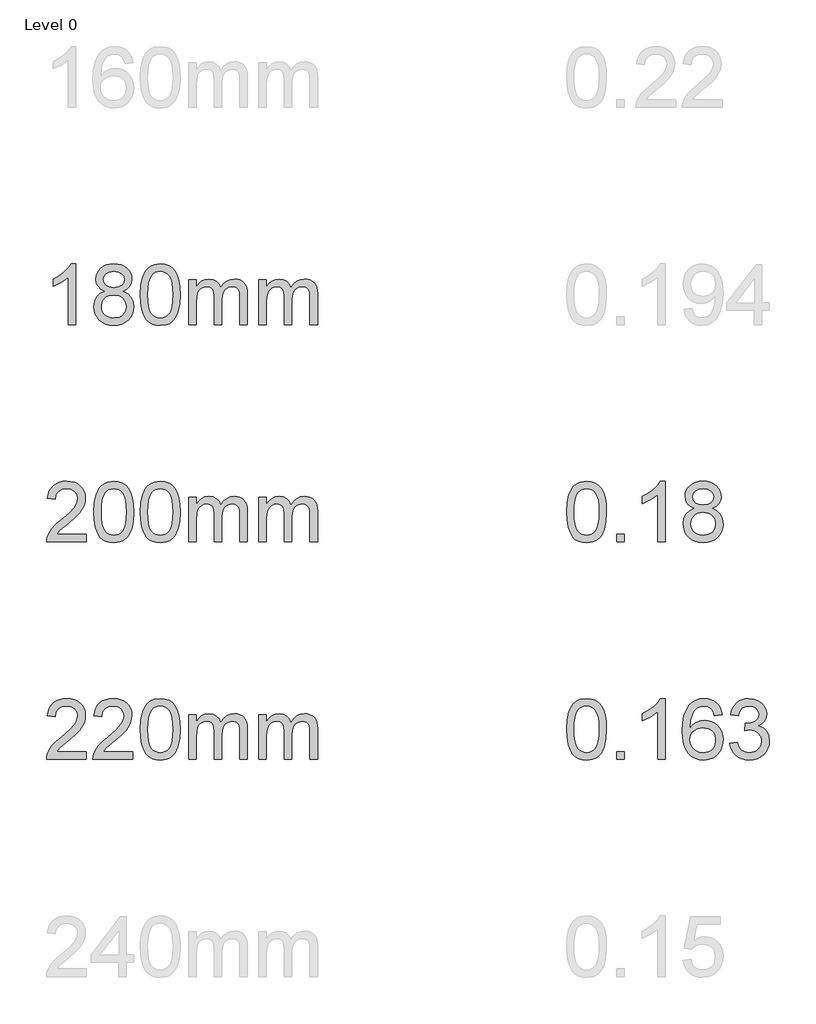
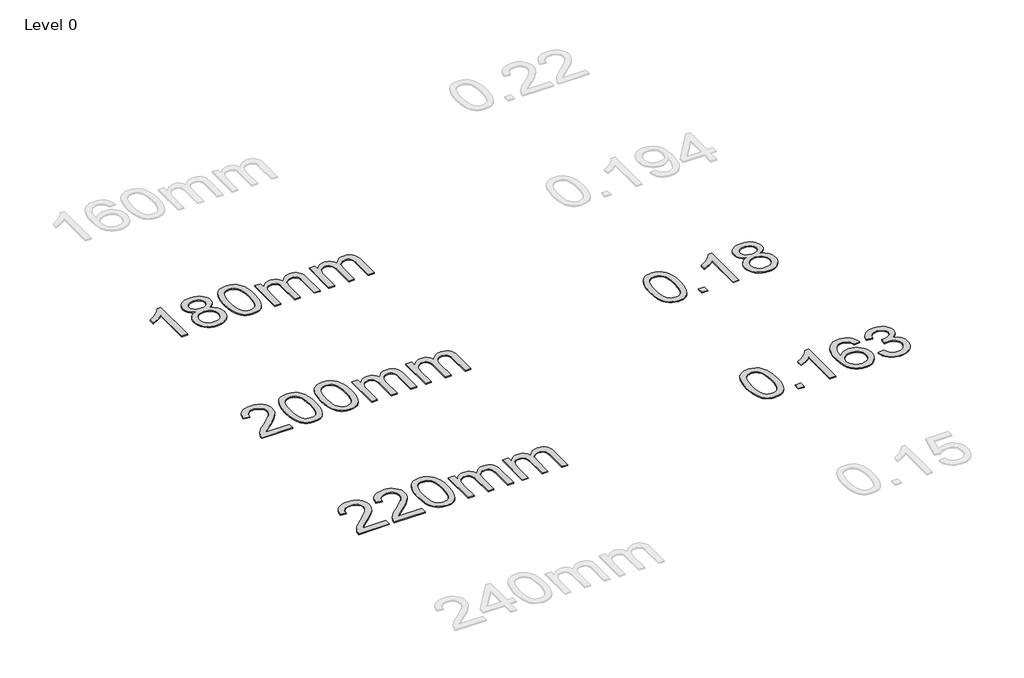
# One storey, part 9 of 11: 5 proxies.
"""IFC4 building model written with IfcOpenShell, lengths in millimetres."""

from ifc_helpers import new_model, si_unit, origin, origin_with_axes, place, context, project, spatial, polyline, outline, extrude, element, save

model = new_model("IFC4")

# Units and contexts
model_context = context("Model", 3, world=origin())
ifc_project = project(units=[si_unit("LENGTHUNIT", "METRE", prefix="MILLI")], contexts=[model_context])

# Site, building, storey
site = spatial("IfcSite", under=ifc_project)
building = spatial("IfcBuilding", under=site)
storey = spatial("IfcBuildingStorey", under=building, Name="Level 0", Elevation=0.0)

# Proxies
placement = place(None, origin())
element("IfcBuildingElementProxy", 1, Name="600mm Arial-400", ObjectType="600mm Arial-400", at=placement, inside=storey, context=model_context, shape_type="SweptSolid", body=[
    extrude(outline(polyline([(34413.7833472, 2821.9346906), (34363.5551921, 2821.9346906), (34363.5551921, 3135.0758449), (34342.5859184, 3118.1164849), (34315.9757874, 3101.1816504), (34263.0988819, 3075.8223182), (34263.0988819, 3123.303621), (34302.5480946, 3144.7634041), (34336.7243319, 3170.2944146), (34363.6655567, 3197.4441058), (34381.4097316, 3223.7599312), (34413.7833472, 3223.7599312), (34413.7833472, 2821.9346906)])), origin_with_axes(), (0.0, 0.0, 1.0), 8.0),
    extrude(outline(polyline([(34606.259207, 3043.2524989), (34579.3670332, 3056.4962507), (34560.4946868, 3074.4488921), (34549.3478624, 3096.742541), (34545.6322542, 3123.0093154), (34547.6556052, 3143.4942112), (34553.7256581, 3162.2745871), (34563.842413, 3179.350443), (34578.0058698, 3194.721779), (34595.5354469, 3207.4259706), (34615.7505625, 3216.5003932), (34638.6512167, 3221.9450467), (34664.2374095, 3223.7599312), (34689.9462296, 3221.9021271), (34713.018562, 3216.3287149), (34733.4544069, 3207.0396945), (34751.2537641, 3194.035066), (34765.6747383, 3178.363293), (34775.9754341, 3161.0728392), (34782.1558517, 3142.1637047), (34784.2159908, 3121.6358893), (34780.5494336, 3096.2152435), (34769.549762, 3074.3017393), (34751.0943485, 3056.4594625), (34725.060566, 3043.2524989), (34755.9749163, 3027.3232085), (34778.4770317, 3003.8645999), (34792.1990301, 2974.0048447), (34796.7730296, 2938.8721141), (34794.504424, 2913.8193503), (34787.6986071, 2890.851251), (34776.3555789, 2869.9678164), (34760.4753394, 2851.1690465), (34740.8917545, 2835.6321635), (34718.4386901, 2824.53439), (34693.1161461, 2817.8757259), (34664.9241225, 2815.6561712), (34636.732099, 2817.884923), (34611.409555, 2824.5711782), (34588.9564905, 2835.714937), (34569.3729057, 2851.3161993), (34553.4926662, 2870.2467936), (34542.149638, 2891.3785485), (34535.3438211, 2914.7114641), (34533.0752155, 2940.2455402), (34537.8331559, 2976.7394342), (34552.1069773, 3006.758605), (34575.1609157, 3029.2729831), (34606.259207, 3043.2524989)]), holes=[polyline([(34595.8604093, 3121.5377875), (34600.3117814, 3099.6120206), (34613.6658979, 3082.1008376), (34635.5303511, 3070.6229193), (34665.5127337, 3066.7969466), (34694.7961405, 3070.5983939), (34716.3295, 3082.0027357), (34729.5732518, 3098.9253075), (34733.9878358, 3119.2814446), (34729.426099, 3140.4101338), (34715.7408888, 3157.8845286), (34693.9132238, 3169.6199642), (34664.9241225, 3173.5317761), (34635.7510803, 3169.7058034), (34613.9602035, 3158.2278851), (34600.3853578, 3141.4034152), (34595.8604093, 3121.5377875)]), polyline([(34583.3033705, 2942.0113738), (34585.4002979, 2922.7956709), (34591.69108, 2904.1931047), (34603.3038883, 2887.9695087), (34621.3668943, 2875.8907166), (34642.9983556, 2868.3859238), (34665.31653, 2865.8843263), (34699.5050301, 2871.1450388), (34713.3987068, 2877.7209295), (34725.1586679, 2886.9271764), (34741.1983229, 2910.8272434), (34746.5448745, 2940.441744), (34741.0266446, 2970.5590166), (34724.4719548, 2994.9863811), (34712.3931626, 3004.4286857), (34698.2297058, 3011.1731889), (34663.6487983, 3016.5687915), (34629.9385448, 3011.2467653), (34616.201218, 3004.5942326), (34604.5424244, 2995.2806867), (34588.613134, 2971.3193061), (34583.3033705, 2942.0113738)])]), origin_with_axes(), (0.0, 0.0, 1.0), 8.0),
    extrude(outline(polyline([(34840.7226653, 3019.6099493), (34844.413748, 3083.9279848), (34855.486996, 3135.2229977), (34873.8320449, 3174.2798028), (34885.6901078, 3189.5131831), (34899.3385299, 3201.8832152), (34914.8232962, 3211.4542785), (34932.190392, 3218.2907522), (34972.5715724, 3223.7599312), (35003.5227109, 3220.5225696), (35031.2364879, 3210.810485), (35054.4130536, 3195.0038219), (35071.7525583, 3173.4827252), (35084.8491573, 3146.4311358), (35095.297006, 3114.0329948), (35102.1396111, 3072.891525), (35104.4204794, 3019.6099493), (35100.766185, 2955.6597958), (35089.8033015, 2904.4874103), (35071.5686173, 2865.393817), (35059.7381454, 2850.1144514), (35046.0989205, 2837.68004), (35030.5957601, 2828.0445974), (35013.1734819, 2821.1621384), (34972.5715724, 2815.6561712), (34944.9068463, 2818.0474042), (34920.38138, 2825.2211031), (34898.9951733, 2837.1772679), (34880.7482264, 2853.9158987), (34863.2370434, 2884.1741928), (34850.7290556, 2921.8759659), (34843.2242629, 2967.0212181), (34840.7226653, 3019.6099493)]), holes=[polyline([(34890.9508204, 3019.7080512), (34892.4223484, 2976.0435241), (34896.8369323, 2940.6992614), (34904.1945722, 2913.6752631), (34914.4952681, 2894.9715294), (34926.954205, 2882.245878), (34940.786568, 2873.1561271), (34955.9923571, 2867.7022765), (34972.5715724, 2865.8843263), (34989.1507876, 2867.7084078), (35004.3565767, 2873.1806525), (35018.1889398, 2882.3010603), (35030.6478767, 2895.0696312), (35040.9485725, 2913.8040218), (35048.3062124, 2940.8218887), (35052.7207964, 2976.1232318), (35054.1923244, 3019.7080512), (35052.7698473, 3062.2168157), (35048.5024162, 3096.9387447), (35041.3900309, 3123.8738381), (35031.4326916, 3143.022096), (35019.1822212, 3156.370081), (35005.1904426, 3165.9043561), (34989.4573559, 3171.6249211), (34971.9829612, 3173.5317761), (34955.4895851, 3171.8517817), (34940.5413133, 3166.8117983), (34927.138146, 3158.4118261), (34915.280083, 3146.651865), (34904.6360306, 3125.8052186), (34897.033136, 3097.6990342), (34892.4713993, 3062.3333117), (34890.9508204, 3019.7080512)])]), origin_with_axes(), (0.0, 0.0, 1.0), 8.0),
    extrude(outline(polyline([(35160.9271539, 2821.9346906), (35160.9271539, 3117.0251017), (35211.155309, 3117.0251017), (35211.155309, 3068.4646783), (35226.2629962, 3090.7705899), (35245.6871656, 3108.2449847), (35268.7656294, 3119.538962), (35294.8362001, 3123.303621), (35322.7707063, 3119.4653856), (35345.1624571, 3107.9506791), (35361.8888251, 3089.5197912), (35372.8271831, 3064.9330111), (35391.1354437, 3090.470153), (35412.0188783, 3108.7109686), (35435.4774869, 3119.6554579), (35461.5112694, 3123.303621), (35481.6190861, 3121.7861078), (35499.2682249, 3117.2335681), (35514.4586856, 3109.646002), (35527.1904683, 3099.0234094), (35537.2551065, 3085.243163), (35544.4441339, 3068.1826354), (35548.7575503, 3047.8418268), (35550.1953557, 3024.220737), (35550.1953557, 2821.9346906), (35499.9672007, 2821.9346906), (35499.9672007, 3002.6383266), (35498.802241, 3027.6910905), (35495.307362, 3044.5768741), (35488.7590625, 3056.1406315), (35478.4338412, 3065.2273167), (35465.1533012, 3071.1134287), (35449.7390456, 3073.075466), (35422.5280407, 3068.0477454), (35400.3447564, 3052.9645836), (35391.7393834, 3041.3946948), (35385.5926884, 3026.795911), (35380.6753323, 2988.511658), (35380.6753323, 2821.9346906), (35330.4471773, 2821.9346906), (35330.4471773, 3008.2301329), (35327.5409095, 3036.630623), (35318.8221062, 3056.8886582), (35303.481427, 3069.028764), (35280.7095315, 3073.075466), (35261.3589386, 3070.3776647), (35243.5289245, 3062.2842608), (35228.8136447, 3048.991458), (35218.8072545, 3030.6954601), (35213.0682953, 3005.3116025), (35211.155309, 2970.7552204), (35211.155309, 2821.9346906), (35160.9271539, 2821.9346906)])), origin_with_axes(), (0.0, 0.0, 1.0), 8.0),
    extrude(outline(polyline([(35625.5375883, 2821.9346906), (35625.5375883, 3117.0251017), (35675.7657434, 3117.0251017), (35675.7657434, 3068.4646783), (35690.8734307, 3090.7705899), (35710.2976, 3108.2449847), (35733.3760639, 3119.538962), (35759.4466346, 3123.303621), (35787.3811408, 3119.4653856), (35809.7728915, 3107.9506791), (35826.4992596, 3089.5197912), (35837.4376176, 3064.9330111), (35855.7458782, 3090.470153), (35876.6293128, 3108.7109686), (35900.0879213, 3119.6554579), (35926.1217039, 3123.303621), (35946.2295206, 3121.7861078), (35963.8786593, 3117.2335681), (35979.06912, 3109.646002), (35991.8009027, 3099.0234094), (36001.865541, 3085.243163), (36009.0545683, 3068.1826354), (36013.3679847, 3047.8418268), (36014.8057902, 3024.220737), (36014.8057902, 2821.9346906), (35964.5776351, 2821.9346906), (35964.5776351, 3002.6383266), (35963.4126754, 3027.6910905), (35959.9177965, 3044.5768741), (35953.369497, 3056.1406315), (35943.0442756, 3065.2273167), (35929.7637356, 3071.1134287), (35914.34948, 3073.075466), (35887.1384751, 3068.0477454), (35864.9551908, 3052.9645836), (35856.3498178, 3041.3946948), (35850.2031228, 3026.795911), (35845.2857668, 2988.511658), (35845.2857668, 2821.9346906), (35795.0576117, 2821.9346906), (35795.0576117, 3008.2301329), (35792.151344, 3036.630623), (35783.4325407, 3056.8886582), (35768.0918615, 3069.028764), (35745.319966, 3073.075466), (35725.969373, 3070.3776647), (35708.139359, 3062.2842608), (35693.4240792, 3048.991458), (35683.4176889, 3030.6954601), (35677.6787298, 3005.3116025), (35675.7657434, 2970.7552204), (35675.7657434, 2821.9346906), (35625.5375883, 2821.9346906)])), origin_with_axes(), (0.0, 0.0, 1.0), 8.0),
])
element("IfcBuildingElementProxy", 2, Name="600mm Arial-400", ObjectType="600mm Arial-400", at=placement, inside=storey, context=model_context, shape_type="SweptSolid", body=[
    extrude(outline(polyline([(34482.8470604, 1432.1628457), (34482.8470604, 1381.9346906), (34219.1492462, 1381.9346906), (34220.2528922, 1399.6175518), (34224.5448488, 1416.5646491), (34236.9424721, 1443.6285012), (34255.1035799, 1469.8830129), (34281.3580916, 1497.3637979), (34318.0359265, 1528.10647), (34372.2249444, 1576.2499604), (34404.7089246, 1611.7873612), (34420.9325206, 1640.6293096), (34426.3403859, 1668.6864431), (34421.2268262, 1693.8373088), (34405.886147, 1714.7452689), (34382.3049111, 1728.8351493), (34352.4696813, 1733.5317761), (34321.138398, 1728.9455139), (34296.7968727, 1715.1867273), (34281.0883115, 1693.3345368), (34275.6559207, 1664.4680629), (34225.4277656, 1670.7465823), (34229.7473134, 1696.6761316), (34237.6046597, 1719.3315311), (34248.9998045, 1738.7127809), (34263.9327478, 1754.8198809), (34282.0601331, 1767.4811529), (34303.0386039, 1776.5249186), (34326.8681601, 1781.951178), (34353.5488018, 1783.7599312), (34380.4685668, 1781.748843), (34404.4268817, 1775.7155782), (34425.4237466, 1765.660137), (34443.4591614, 1751.5825193), (34457.944515, 1734.5250575), (34468.2911961, 1715.5300838), (34474.4992048, 1694.5975983), (34476.568541, 1671.7276009), (34474.3367236, 1647.7049066), (34467.6412713, 1624.0991453), (34455.7586828, 1600.0887137), (34437.965457, 1574.8520089), (34409.6017551, 1544.7224735), (34366.0077387, 1506.0335503), (34308.22574, 1457.7183816), (34285.5642091, 1432.1628457), (34482.8470604, 1432.1628457)])), origin_with_axes(), (0.0, 0.0, 1.0), 8.0),
    extrude(outline(polyline([(34533.0752155, 1579.6099493), (34536.7662981, 1643.9279848), (34547.8395462, 1695.2229977), (34566.184595, 1734.2798028), (34578.042658, 1749.5131831), (34591.69108, 1761.8832152), (34607.1758463, 1771.4542785), (34624.5429422, 1778.2907522), (34664.9241225, 1783.7599312), (34695.8752611, 1780.5225696), (34723.589038, 1770.810485), (34746.7656037, 1755.0038219), (34764.1051084, 1733.4827252), (34777.2017075, 1706.4311358), (34787.6495561, 1674.0329948), (34794.4921612, 1632.891525), (34796.7730296, 1579.6099493), (34793.1187351, 1515.6597958), (34782.1558517, 1464.4874103), (34763.9211674, 1425.393817), (34752.0906956, 1410.1144514), (34738.4514706, 1397.68004), (34722.9483102, 1388.0445974), (34705.5260321, 1381.1621384), (34664.9241225, 1375.6561712), (34637.2593965, 1378.0474042), (34612.7339302, 1385.2211031), (34591.3477235, 1397.1772679), (34573.1007765, 1413.9158987), (34555.5895936, 1444.1741928), (34543.0816057, 1481.8759659), (34535.576813, 1527.0212181), (34533.0752155, 1579.6099493)]), holes=[polyline([(34583.3033705, 1579.7080512), (34584.7748985, 1536.0435241), (34589.1894825, 1500.6992614), (34596.5471224, 1473.6752631), (34606.8478182, 1454.9715294), (34619.3067551, 1442.245878), (34633.1391182, 1433.1561271), (34648.3449073, 1427.7022765), (34664.9241225, 1425.8843263), (34681.5033378, 1427.7084078), (34696.7091269, 1433.1806525), (34710.5414899, 1442.3010603), (34723.0004268, 1455.0696312), (34733.3011227, 1473.8040218), (34740.6587626, 1500.8218887), (34745.0733465, 1536.1232318), (34746.5448745, 1579.7080512), (34745.1223975, 1622.2168157), (34740.8549663, 1656.9387447), (34733.7425811, 1683.8738381), (34723.7852418, 1703.022096), (34711.5347713, 1716.370081), (34697.5429928, 1725.9043561), (34681.8099061, 1731.6249211), (34664.3355113, 1733.5317761), (34647.8421352, 1731.8517817), (34632.8938635, 1726.8117983), (34619.4906961, 1718.4118261), (34607.6326332, 1706.651865), (34596.9885808, 1685.8052186), (34589.3856862, 1657.6990342), (34584.8239495, 1622.3333117), (34583.3033705, 1579.7080512)])]), origin_with_axes(), (0.0, 0.0, 1.0), 8.0),
    extrude(outline(polyline([(34840.7226653, 1579.6099493), (34844.413748, 1643.9279848), (34855.486996, 1695.2229977), (34873.8320449, 1734.2798028), (34885.6901078, 1749.5131831), (34899.3385299, 1761.8832152), (34914.8232962, 1771.4542785), (34932.190392, 1778.2907522), (34972.5715724, 1783.7599312), (35003.5227109, 1780.5225696), (35031.2364879, 1770.810485), (35054.4130536, 1755.0038219), (35071.7525583, 1733.4827252), (35084.8491573, 1706.4311358), (35095.297006, 1674.0329948), (35102.1396111, 1632.891525), (35104.4204794, 1579.6099493), (35100.766185, 1515.6597958), (35089.8033015, 1464.4874103), (35071.5686173, 1425.393817), (35059.7381454, 1410.1144514), (35046.0989205, 1397.68004), (35030.5957601, 1388.0445974), (35013.1734819, 1381.1621384), (34972.5715724, 1375.6561712), (34944.9068463, 1378.0474042), (34920.38138, 1385.2211031), (34898.9951733, 1397.1772679), (34880.7482264, 1413.9158987), (34863.2370434, 1444.1741928), (34850.7290556, 1481.8759659), (34843.2242629, 1527.0212181), (34840.7226653, 1579.6099493)]), holes=[polyline([(34890.9508204, 1579.7080512), (34892.4223484, 1536.0435241), (34896.8369323, 1500.6992614), (34904.1945722, 1473.6752631), (34914.4952681, 1454.9715294), (34926.954205, 1442.245878), (34940.786568, 1433.1561271), (34955.9923571, 1427.7022765), (34972.5715724, 1425.8843263), (34989.1507876, 1427.7084078), (35004.3565767, 1433.1806525), (35018.1889398, 1442.3010603), (35030.6478767, 1455.0696312), (35040.9485725, 1473.8040218), (35048.3062124, 1500.8218887), (35052.7207964, 1536.1232318), (35054.1923244, 1579.7080512), (35052.7698473, 1622.2168157), (35048.5024162, 1656.9387447), (35041.3900309, 1683.8738381), (35031.4326916, 1703.022096), (35019.1822212, 1716.370081), (35005.1904426, 1725.9043561), (34989.4573559, 1731.6249211), (34971.9829612, 1733.5317761), (34955.4895851, 1731.8517817), (34940.5413133, 1726.8117983), (34927.138146, 1718.4118261), (34915.280083, 1706.651865), (34904.6360306, 1685.8052186), (34897.033136, 1657.6990342), (34892.4713993, 1622.3333117), (34890.9508204, 1579.7080512)])]), origin_with_axes(), (0.0, 0.0, 1.0), 8.0),
    extrude(outline(polyline([(35160.9271539, 1381.9346906), (35160.9271539, 1677.0251017), (35211.155309, 1677.0251017), (35211.155309, 1628.4646783), (35226.2629962, 1650.7705899), (35245.6871656, 1668.2449847), (35268.7656294, 1679.538962), (35294.8362001, 1683.303621), (35322.7707063, 1679.4653856), (35345.1624571, 1667.9506791), (35361.8888251, 1649.5197912), (35372.8271831, 1624.9330111), (35391.1354437, 1650.470153), (35412.0188783, 1668.7109686), (35435.4774869, 1679.6554579), (35461.5112694, 1683.303621), (35481.6190861, 1681.7861078), (35499.2682249, 1677.2335681), (35514.4586856, 1669.646002), (35527.1904683, 1659.0234094), (35537.2551065, 1645.243163), (35544.4441339, 1628.1826354), (35548.7575503, 1607.8418268), (35550.1953557, 1584.220737), (35550.1953557, 1381.9346906), (35499.9672007, 1381.9346906), (35499.9672007, 1562.6383266), (35498.802241, 1587.6910905), (35495.307362, 1604.5768741), (35488.7590625, 1616.1406315), (35478.4338412, 1625.2273167), (35465.1533012, 1631.1134287), (35449.7390456, 1633.075466), (35422.5280407, 1628.0477454), (35400.3447564, 1612.9645836), (35391.7393834, 1601.3946948), (35385.5926884, 1586.795911), (35380.6753323, 1548.511658), (35380.6753323, 1381.9346906), (35330.4471773, 1381.9346906), (35330.4471773, 1568.2301329), (35327.5409095, 1596.630623), (35318.8221062, 1616.8886582), (35303.481427, 1629.028764), (35280.7095315, 1633.075466), (35261.3589386, 1630.3776647), (35243.5289245, 1622.2842608), (35228.8136447, 1608.991458), (35218.8072545, 1590.6954601), (35213.0682953, 1565.3116025), (35211.155309, 1530.7552204), (35211.155309, 1381.9346906), (35160.9271539, 1381.9346906)])), origin_with_axes(), (0.0, 0.0, 1.0), 8.0),
    extrude(outline(polyline([(35625.5375883, 1381.9346906), (35625.5375883, 1677.0251017), (35675.7657434, 1677.0251017), (35675.7657434, 1628.4646783), (35690.8734307, 1650.7705899), (35710.2976, 1668.2449847), (35733.3760639, 1679.538962), (35759.4466346, 1683.303621), (35787.3811408, 1679.4653856), (35809.7728915, 1667.9506791), (35826.4992596, 1649.5197912), (35837.4376176, 1624.9330111), (35855.7458782, 1650.470153), (35876.6293128, 1668.7109686), (35900.0879213, 1679.6554579), (35926.1217039, 1683.303621), (35946.2295206, 1681.7861078), (35963.8786593, 1677.2335681), (35979.06912, 1669.646002), (35991.8009027, 1659.0234094), (36001.865541, 1645.243163), (36009.0545683, 1628.1826354), (36013.3679847, 1607.8418268), (36014.8057902, 1584.220737), (36014.8057902, 1381.9346906), (35964.5776351, 1381.9346906), (35964.5776351, 1562.6383266), (35963.4126754, 1587.6910905), (35959.9177965, 1604.5768741), (35953.369497, 1616.1406315), (35943.0442756, 1625.2273167), (35929.7637356, 1631.1134287), (35914.34948, 1633.075466), (35887.1384751, 1628.0477454), (35864.9551908, 1612.9645836), (35856.3498178, 1601.3946948), (35850.2031228, 1586.795911), (35845.2857668, 1548.511658), (35845.2857668, 1381.9346906), (35795.0576117, 1381.9346906), (35795.0576117, 1568.2301329), (35792.151344, 1596.630623), (35783.4325407, 1616.8886582), (35768.0918615, 1629.028764), (35745.319966, 1633.075466), (35725.969373, 1630.3776647), (35708.139359, 1622.2842608), (35693.4240792, 1608.991458), (35683.4176889, 1590.6954601), (35677.6787298, 1565.3116025), (35675.7657434, 1530.7552204), (35675.7657434, 1381.9346906), (35625.5375883, 1381.9346906)])), origin_with_axes(), (0.0, 0.0, 1.0), 8.0),
])
element("IfcBuildingElementProxy", 3, Name="600mm Arial-400", ObjectType="600mm Arial-400", at=placement, inside=storey, context=model_context, shape_type="SweptSolid", body=[
    extrude(outline(polyline([(34482.8470604, -7.8371543), (34482.8470604, -58.0653094), (34219.1492462, -58.0653094), (34220.2528922, -40.3824482), (34224.5448488, -23.4353509), (34236.9424721, 3.6285012), (34255.1035799, 29.8830129), (34281.3580916, 57.3637979), (34318.0359265, 88.10647), (34372.2249444, 136.2499604), (34404.7089246, 171.7873612), (34420.9325206, 200.6293096), (34426.3403859, 228.6864431), (34421.2268262, 253.8373088), (34405.886147, 274.7452689), (34382.3049111, 288.8351493), (34352.4696813, 293.5317761), (34321.138398, 288.9455139), (34296.7968727, 275.1867273), (34281.0883115, 253.3345368), (34275.6559207, 224.4680629), (34225.4277656, 230.7465823), (34229.7473134, 256.6761316), (34237.6046597, 279.3315311), (34248.9998045, 298.7127809), (34263.9327478, 314.8198809), (34282.0601331, 327.4811529), (34303.0386039, 336.5249186), (34326.8681601, 341.951178), (34353.5488018, 343.7599312), (34380.4685668, 341.748843), (34404.4268817, 335.7155782), (34425.4237466, 325.660137), (34443.4591614, 311.5825193), (34457.944515, 294.5250575), (34468.2911961, 275.5300838), (34474.4992048, 254.5975983), (34476.568541, 231.7276009), (34474.3367236, 207.7049066), (34467.6412713, 184.0991453), (34455.7586828, 160.0887137), (34437.965457, 134.8520089), (34409.6017551, 104.7224735), (34366.0077387, 66.0335503), (34308.22574, 17.7183816), (34285.5642091, -7.8371543), (34482.8470604, -7.8371543)])), origin_with_axes(), (0.0, 0.0, 1.0), 8.0),
    extrude(outline(polyline([(34790.4945102, -7.8371543), (34790.4945102, -58.0653094), (34526.7966961, -58.0653094), (34527.9003421, -40.3824482), (34532.1922987, -23.4353509), (34544.5899219, 3.6285012), (34562.7510297, 29.8830129), (34589.0055415, 57.3637979), (34625.6833764, 88.10647), (34679.8723943, 136.2499604), (34712.3563744, 171.7873612), (34728.5799704, 200.6293096), (34733.9878358, 228.6864431), (34728.874276, 253.8373088), (34713.5335968, 274.7452689), (34689.9523609, 288.8351493), (34660.1171311, 293.5317761), (34628.7858479, 288.9455139), (34604.4443225, 275.1867273), (34588.7357613, 253.3345368), (34583.3033705, 224.4680629), (34533.0752155, 230.7465823), (34537.3947632, 256.6761316), (34545.2521095, 279.3315311), (34556.6472543, 298.7127809), (34571.5801976, 314.8198809), (34589.7075829, 327.4811529), (34610.6860537, 336.5249186), (34634.5156099, 341.951178), (34661.1962516, 343.7599312), (34688.1160166, 341.748843), (34712.0743316, 335.7155782), (34733.0711965, 325.660137), (34751.1066113, 311.5825193), (34765.5919648, 294.5250575), (34775.9386459, 275.5300838), (34782.1466546, 254.5975983), (34784.2159908, 231.7276009), (34781.9841734, 207.7049066), (34775.2887211, 184.0991453), (34763.4061326, 160.0887137), (34745.6129068, 134.8520089), (34717.249205, 104.7224735), (34673.6551886, 66.0335503), (34615.8731898, 17.7183816), (34593.2116589, -7.8371543), (34790.4945102, -7.8371543)])), origin_with_axes(), (0.0, 0.0, 1.0), 8.0),
    extrude(outline(polyline([(34840.7226653, 139.6099493), (34844.413748, 203.9279848), (34855.486996, 255.2229977), (34873.8320449, 294.2798028), (34885.6901078, 309.5131831), (34899.3385299, 321.8832152), (34914.8232962, 331.4542785), (34932.190392, 338.2907522), (34972.5715724, 343.7599312), (35003.5227109, 340.5225696), (35031.2364879, 330.810485), (35054.4130536, 315.0038219), (35071.7525583, 293.4827252), (35084.8491573, 266.4311358), (35095.297006, 234.0329948), (35102.1396111, 192.891525), (35104.4204794, 139.6099493), (35100.766185, 75.6597958), (35089.8033015, 24.4874103), (35071.5686173, -14.606183), (35059.7381454, -29.8855486), (35046.0989205, -42.31996), (35030.5957601, -51.9554026), (35013.1734819, -58.8378616), (34972.5715724, -64.3438288), (34944.9068463, -61.9525958), (34920.38138, -54.7788969), (34898.9951733, -42.8227321), (34880.7482264, -26.0841013), (34863.2370434, 4.1741928), (34850.7290556, 41.8759659), (34843.2242629, 87.0212181), (34840.7226653, 139.6099493)]), holes=[polyline([(34890.9508204, 139.7080512), (34892.4223484, 96.0435241), (34896.8369323, 60.6992614), (34904.1945722, 33.6752631), (34914.4952681, 14.9715294), (34926.954205, 2.245878), (34940.786568, -6.8438729), (34955.9923571, -12.2977235), (34972.5715724, -14.1156737), (34989.1507876, -12.2915922), (35004.3565767, -6.8193475), (35018.1889398, 2.3010603), (35030.6478767, 15.0696312), (35040.9485725, 33.8040218), (35048.3062124, 60.8218887), (35052.7207964, 96.1232318), (35054.1923244, 139.7080512), (35052.7698473, 182.2168157), (35048.5024162, 216.9387447), (35041.3900309, 243.8738381), (35031.4326916, 263.022096), (35019.1822212, 276.370081), (35005.1904426, 285.9043561), (34989.4573559, 291.6249211), (34971.9829612, 293.5317761), (34955.4895851, 291.8517817), (34940.5413133, 286.8117983), (34927.138146, 278.4118261), (34915.280083, 266.651865), (34904.6360306, 245.8052186), (34897.033136, 217.6990342), (34892.4713993, 182.3333117), (34890.9508204, 139.7080512)])]), origin_with_axes(), (0.0, 0.0, 1.0), 8.0),
    extrude(outline(polyline([(35160.9271539, -58.0653094), (35160.9271539, 237.0251017), (35211.155309, 237.0251017), (35211.155309, 188.4646783), (35226.2629962, 210.7705899), (35245.6871656, 228.2449847), (35268.7656294, 239.538962), (35294.8362001, 243.303621), (35322.7707063, 239.4653856), (35345.1624571, 227.9506791), (35361.8888251, 209.5197912), (35372.8271831, 184.9330111), (35391.1354437, 210.470153), (35412.0188783, 228.7109686), (35435.4774869, 239.6554579), (35461.5112694, 243.303621), (35481.6190861, 241.7861078), (35499.2682249, 237.2335681), (35514.4586856, 229.646002), (35527.1904683, 219.0234094), (35537.2551065, 205.243163), (35544.4441339, 188.1826354), (35548.7575503, 167.8418268), (35550.1953557, 144.220737), (35550.1953557, -58.0653094), (35499.9672007, -58.0653094), (35499.9672007, 122.6383266), (35498.802241, 147.6910905), (35495.307362, 164.5768741), (35488.7590625, 176.1406315), (35478.4338412, 185.2273167), (35465.1533012, 191.1134287), (35449.7390456, 193.075466), (35422.5280407, 188.0477454), (35400.3447564, 172.9645836), (35391.7393834, 161.3946948), (35385.5926884, 146.795911), (35380.6753323, 108.511658), (35380.6753323, -58.0653094), (35330.4471773, -58.0653094), (35330.4471773, 128.2301329), (35327.5409095, 156.630623), (35318.8221062, 176.8886582), (35303.481427, 189.028764), (35280.7095315, 193.075466), (35261.3589386, 190.3776647), (35243.5289245, 182.2842608), (35228.8136447, 168.991458), (35218.8072545, 150.6954601), (35213.0682953, 125.3116025), (35211.155309, 90.7552204), (35211.155309, -58.0653094), (35160.9271539, -58.0653094)])), origin_with_axes(), (0.0, 0.0, 1.0), 8.0),
    extrude(outline(polyline([(35625.5375883, -58.0653094), (35625.5375883, 237.0251017), (35675.7657434, 237.0251017), (35675.7657434, 188.4646783), (35690.8734307, 210.7705899), (35710.2976, 228.2449847), (35733.3760639, 239.538962), (35759.4466346, 243.303621), (35787.3811408, 239.4653856), (35809.7728915, 227.9506791), (35826.4992596, 209.5197912), (35837.4376176, 184.9330111), (35855.7458782, 210.470153), (35876.6293128, 228.7109686), (35900.0879213, 239.6554579), (35926.1217039, 243.303621), (35946.2295206, 241.7861078), (35963.8786593, 237.2335681), (35979.06912, 229.646002), (35991.8009027, 219.0234094), (36001.865541, 205.243163), (36009.0545683, 188.1826354), (36013.3679847, 167.8418268), (36014.8057902, 144.220737), (36014.8057902, -58.0653094), (35964.5776351, -58.0653094), (35964.5776351, 122.6383266), (35963.4126754, 147.6910905), (35959.9177965, 164.5768741), (35953.369497, 176.1406315), (35943.0442756, 185.2273167), (35929.7637356, 191.1134287), (35914.34948, 193.075466), (35887.1384751, 188.0477454), (35864.9551908, 172.9645836), (35856.3498178, 161.3946948), (35850.2031228, 146.795911), (35845.2857668, 108.511658), (35845.2857668, -58.0653094), (35795.0576117, -58.0653094), (35795.0576117, 128.2301329), (35792.151344, 156.630623), (35783.4325407, 176.8886582), (35768.0918615, 189.028764), (35745.319966, 193.075466), (35725.969373, 190.3776647), (35708.139359, 182.2842608), (35693.4240792, 168.991458), (35683.4176889, 150.6954601), (35677.6787298, 125.3116025), (35675.7657434, 90.7552204), (35675.7657434, -58.0653094), (35625.5375883, -58.0653094)])), origin_with_axes(), (0.0, 0.0, 1.0), 8.0),
])
element("IfcBuildingElementProxy", 4, Name="600mm Arial-400", ObjectType="600mm Arial-400", at=placement, inside=storey, context=model_context, shape_type="SweptSolid", body=[
    extrude(outline(polyline([(37665.4277656, 1579.6099493), (37669.1188483, 1643.9279848), (37680.1920964, 1695.2229977), (37698.5371452, 1734.2798028), (37710.3952082, 1749.5131831), (37724.0436302, 1761.8832152), (37739.5283965, 1771.4542785), (37756.8954924, 1778.2907522), (37797.2766727, 1783.7599312), (37828.2278112, 1780.5225696), (37855.9415882, 1770.810485), (37879.1181539, 1755.0038219), (37896.4576586, 1733.4827252), (37909.5542576, 1706.4311358), (37920.0021063, 1674.0329948), (37926.8447114, 1632.891525), (37929.1255798, 1579.6099493), (37925.4712853, 1515.6597958), (37914.5084018, 1464.4874103), (37896.2737176, 1425.393817), (37884.4432458, 1410.1144514), (37870.8040208, 1397.68004), (37855.3008604, 1388.0445974), (37837.8785822, 1381.1621384), (37797.2766727, 1375.6561712), (37769.6119467, 1378.0474042), (37745.0864803, 1385.2211031), (37723.7002737, 1397.1772679), (37705.4533267, 1413.9158987), (37687.9421437, 1444.1741928), (37675.4341559, 1481.8759659), (37667.9293632, 1527.0212181), (37665.4277656, 1579.6099493)]), holes=[polyline([(37715.6559207, 1579.7080512), (37717.1274487, 1536.0435241), (37721.5420326, 1500.6992614), (37728.8996725, 1473.6752631), (37739.2003684, 1454.9715294), (37751.6593053, 1442.245878), (37765.4916683, 1433.1561271), (37780.6974575, 1427.7022765), (37797.2766727, 1425.8843263), (37813.8558879, 1427.7084078), (37829.0616771, 1433.1806525), (37842.8940401, 1442.3010603), (37855.352977, 1455.0696312), (37865.6536729, 1473.8040218), (37873.0113128, 1500.8218887), (37877.4258967, 1536.1232318), (37878.8974247, 1579.7080512), (37877.4749476, 1622.2168157), (37873.2075165, 1656.9387447), (37866.0951313, 1683.8738381), (37856.1377919, 1703.022096), (37843.8873215, 1716.370081), (37829.8955429, 1725.9043561), (37814.1624563, 1731.6249211), (37796.6880615, 1733.5317761), (37780.1946854, 1731.8517817), (37765.2464137, 1726.8117983), (37751.8432463, 1718.4118261), (37739.9851833, 1706.651865), (37729.3411309, 1685.8052186), (37721.7382364, 1657.6990342), (37717.1764996, 1622.3333117), (37715.6559207, 1579.7080512)])]), origin_with_axes(), (0.0, 0.0, 1.0), 8.0),
    extrude(outline(polyline([(37998.189293, 1381.9346906), (37998.189293, 1432.1628457), (38048.4174481, 1432.1628457), (38048.4174481, 1381.9346906), (37998.189293, 1381.9346906)])), origin_with_axes(), (0.0, 0.0, 1.0), 8.0),
    extrude(outline(polyline([(38318.3937816, 1381.9346906), (38268.1656265, 1381.9346906), (38268.1656265, 1695.0758449), (38247.1963528, 1678.1164849), (38220.5862218, 1661.1816504), (38167.7093164, 1635.8223182), (38167.7093164, 1683.303621), (38207.158529, 1704.7634041), (38241.3347663, 1730.2944146), (38268.2759911, 1757.4441058), (38286.020166, 1783.7599312), (38318.3937816, 1783.7599312), (38318.3937816, 1381.9346906)])), origin_with_axes(), (0.0, 0.0, 1.0), 8.0),
    extrude(outline(polyline([(38510.8696415, 1603.2524989), (38483.9774676, 1616.4962507), (38465.1051213, 1634.4488921), (38453.9582968, 1656.742541), (38450.2426887, 1683.0093154), (38452.2660396, 1703.4942112), (38458.3360926, 1722.2745871), (38468.4528474, 1739.350443), (38482.6163042, 1754.721779), (38500.1458813, 1767.4259706), (38520.360997, 1776.5003932), (38543.2616512, 1781.9450467), (38568.8478439, 1783.7599312), (38594.556664, 1781.9021271), (38617.6289965, 1776.3287149), (38638.0648413, 1767.0396945), (38655.8641985, 1754.035066), (38670.2851727, 1738.363293), (38680.5858686, 1721.0728392), (38686.7662861, 1702.1637047), (38688.8264253, 1681.6358893), (38685.1598681, 1656.2152435), (38674.1601964, 1634.3017393), (38655.704783, 1616.4594625), (38629.6710005, 1603.2524989), (38660.5853508, 1587.3232085), (38683.0874662, 1563.8645999), (38696.8094646, 1534.0048447), (38701.383464, 1498.8721141), (38699.1148584, 1473.8193503), (38692.3090415, 1450.851251), (38680.9660133, 1429.9678164), (38665.0857739, 1411.1690465), (38645.502189, 1395.6321635), (38623.0491245, 1384.53439), (38597.7265805, 1377.8757259), (38569.534557, 1375.6561712), (38541.3425334, 1377.884923), (38516.0199894, 1384.5711782), (38493.566925, 1395.714937), (38473.9833401, 1411.3161993), (38458.1031006, 1430.2467936), (38446.7600725, 1451.3785485), (38439.9542555, 1474.7114641), (38437.6856499, 1500.2455402), (38442.4435904, 1536.7394342), (38456.7174118, 1566.758605), (38479.7713502, 1589.2729831), (38510.8696415, 1603.2524989)]), holes=[polyline([(38487.913805, 1502.0113738), (38490.0107324, 1482.7956709), (38496.3015145, 1464.1931047), (38507.9143228, 1447.9695087), (38525.9773287, 1435.8907166), (38547.6087901, 1428.3859238), (38569.9269644, 1425.8843263), (38604.1154645, 1431.1450388), (38618.0091412, 1437.7209295), (38629.7691023, 1446.9271764), (38645.8087573, 1470.8272434), (38651.155309, 1500.441744), (38645.637079, 1530.5590166), (38629.0823893, 1554.9863811), (38617.0035971, 1564.4286857), (38602.8401403, 1571.1731889), (38568.2592327, 1576.5687915), (38534.5489792, 1571.2467653), (38520.8116524, 1564.5942326), (38509.1528588, 1555.2806867), (38493.2235684, 1531.3193061), (38487.913805, 1502.0113738)]), polyline([(38500.4708437, 1681.5377875), (38504.9222159, 1659.6120206), (38518.2763323, 1642.1008376), (38540.1407856, 1630.6229193), (38570.1231682, 1626.7969466), (38599.406575, 1630.5983939), (38620.9399344, 1642.0027357), (38634.1836863, 1658.9253075), (38638.5982702, 1679.2814446), (38634.0365335, 1700.4101338), (38620.3513232, 1717.8845286), (38598.5236582, 1729.6199642), (38569.534557, 1733.5317761), (38540.3615148, 1729.7058034), (38518.5706379, 1718.2278851), (38504.9957923, 1701.4034152), (38500.4708437, 1681.5377875)])]), origin_with_axes(), (0.0, 0.0, 1.0), 8.0),
])
element("IfcBuildingElementProxy", 5, Name="600mm Arial-400", ObjectType="600mm Arial-400", at=placement, inside=storey, context=model_context, shape_type="SweptSolid", body=[
    extrude(outline(polyline([(37665.4277656, 139.6099493), (37669.1188483, 203.9279848), (37680.1920964, 255.2229977), (37698.5371452, 294.2798028), (37710.3952082, 309.5131831), (37724.0436302, 321.8832152), (37739.5283965, 331.4542785), (37756.8954924, 338.2907522), (37797.2766727, 343.7599312), (37828.2278112, 340.5225696), (37855.9415882, 330.810485), (37879.1181539, 315.0038219), (37896.4576586, 293.4827252), (37909.5542576, 266.4311358), (37920.0021063, 234.0329948), (37926.8447114, 192.891525), (37929.1255798, 139.6099493), (37925.4712853, 75.6597958), (37914.5084018, 24.4874103), (37896.2737176, -14.606183), (37884.4432458, -29.8855486), (37870.8040208, -42.31996), (37855.3008604, -51.9554026), (37837.8785822, -58.8378616), (37797.2766727, -64.3438288), (37769.6119467, -61.9525958), (37745.0864803, -54.7788969), (37723.7002737, -42.8227321), (37705.4533267, -26.0841013), (37687.9421437, 4.1741928), (37675.4341559, 41.8759659), (37667.9293632, 87.0212181), (37665.4277656, 139.6099493)]), holes=[polyline([(37715.6559207, 139.7080512), (37717.1274487, 96.0435241), (37721.5420326, 60.6992614), (37728.8996725, 33.6752631), (37739.2003684, 14.9715294), (37751.6593053, 2.245878), (37765.4916683, -6.8438729), (37780.6974575, -12.2977235), (37797.2766727, -14.1156737), (37813.8558879, -12.2915922), (37829.0616771, -6.8193475), (37842.8940401, 2.3010603), (37855.352977, 15.0696312), (37865.6536729, 33.8040218), (37873.0113128, 60.8218887), (37877.4258967, 96.1232318), (37878.8974247, 139.7080512), (37877.4749476, 182.2168157), (37873.2075165, 216.9387447), (37866.0951313, 243.8738381), (37856.1377919, 263.022096), (37843.8873215, 276.370081), (37829.8955429, 285.9043561), (37814.1624563, 291.6249211), (37796.6880615, 293.5317761), (37780.1946854, 291.8517817), (37765.2464137, 286.8117983), (37751.8432463, 278.4118261), (37739.9851833, 266.651865), (37729.3411309, 245.8052186), (37721.7382364, 217.6990342), (37717.1764996, 182.3333117), (37715.6559207, 139.7080512)])]), origin_with_axes(), (0.0, 0.0, 1.0), 8.0),
    extrude(outline(polyline([(37998.189293, -58.0653094), (37998.189293, -7.8371543), (38048.4174481, -7.8371543), (38048.4174481, -58.0653094), (37998.189293, -58.0653094)])), origin_with_axes(), (0.0, 0.0, 1.0), 8.0),
    extrude(outline(polyline([(38318.3937816, -58.0653094), (38268.1656265, -58.0653094), (38268.1656265, 255.0758449), (38247.1963528, 238.1164849), (38220.5862218, 221.1816504), (38167.7093164, 195.8223182), (38167.7093164, 243.303621), (38207.158529, 264.7634041), (38241.3347663, 290.2944146), (38268.2759911, 317.4441058), (38286.020166, 343.7599312), (38318.3937816, 343.7599312), (38318.3937816, -58.0653094)])), origin_with_axes(), (0.0, 0.0, 1.0), 8.0),
    extrude(outline(polyline([(38695.1049447, 237.0251017), (38644.8767896, 230.7465823), (38636.7833857, 255.6399306), (38625.8450277, 272.6360788), (38603.0608695, 288.3078518), (38575.5187708, 293.5317761), (38552.1705268, 290.4906183), (38530.195709, 281.3671448), (38511.3233626, 262.1514419), (38495.909107, 235.7007265), (38485.4980465, 198.2871276), (38481.6352856, 146.1827743), (38501.7829562, 169.6904338), (38525.9282778, 186.2573863), (38552.7223498, 196.0798356), (38580.8162715, 199.3539854), (38604.9493304, 197.1160365), (38627.2184538, 190.4021901), (38647.6236418, 179.2124461), (38666.1648944, 163.5468045), (38681.5730186, 144.337233), (38692.5788216, 122.5156993), (38699.1823034, 98.0822034), (38701.383464, 71.0367454), (38697.2386602, 35.070149), (38684.8042488, 1.7277775), (38665.1102993, -26.5500852), (38639.1868814, -47.3231551), (38608.2112174, -60.0886604), (38573.3605297, -64.3438288), (38543.418001, -61.5234002), (38516.3756087, -53.0621143), (38492.2333527, -38.9599711), (38470.9912332, -19.2169707), (38453.6731883, 7.0007528), (38441.3031562, 40.5270653), (38433.8811369, 81.3619668), (38431.4071305, 129.5054572), (38434.1539828, 183.4798773), (38442.3945394, 229.5448344), (38456.1288006, 267.7003287), (38475.3567662, 297.9463601), (38496.1972812, 317.9897974), (38520.360997, 332.3065384), (38547.8479134, 340.896583), (38578.6580305, 343.7599312), (38601.7916766, 341.9879662), (38622.7302935, 336.6720714), (38641.4738811, 327.8122467), (38658.0224395, 315.4084921), (38671.928379, 299.8777405), (38682.7441096, 281.6369249), (38690.4696315, 260.6860453), (38695.1049447, 237.0251017)]), holes=[polyline([(38481.6352856, 71.8215604), (38484.5415534, 49.5646996), (38493.2603566, 28.3133831), (38506.7984141, 10.0419106), (38524.1624442, -3.2754176), (38545.1194552, -11.4056097), (38569.4364551, -14.1156737), (38602.5826229, -8.4993419), (38616.4977593, -1.4789272), (38628.6409309, 8.3496535), (38638.4909713, 20.5878612), (38645.5267144, 34.8371571), (38651.155309, 69.3690137), (38645.6002908, 102.5151815), (38638.6565182, 116.1360124), (38628.9352365, 127.7886746), (38616.7552767, 137.1236802), (38602.4354701, 143.7915413), (38567.3763159, 149.1258303), (38534.2791991, 143.7915413), (38506.6022103, 127.7886746), (38495.6791808, 116.2892965), (38487.8770168, 103.1283181), (38483.1957184, 88.3057394), (38481.6352856, 71.8215604)])]), origin_with_axes(), (0.0, 0.0, 1.0), 8.0),
    extrude(outline(polyline([(38745.3330997, 48.6695201), (38795.5612548, 54.9480395), (38806.8061811, 23.3837643), (38823.2750318, 2.0711341), (38845.7771472, -10.0689718), (38875.1218676, -14.1156737), (38909.5556224, -8.5483929), (38923.8294438, -1.5892918), (38936.1412279, 8.1534497), (38953.1373761, 33.0713235), (38958.8027588, 63.2866981), (38953.186427, 91.969231), (38936.3374316, 115.2316358), (38910.8309466, 130.6458914), (38879.242146, 135.7839766), (38844.0235763, 130.2902721), (38849.6153826, 180.5184272), (38857.6597356, 179.929816), (38887.7524828, 183.5350596), (38914.6569194, 194.3507902), (38925.7301674, 202.5300332), (38933.6396303, 212.6467881), (38938.3853081, 224.7010548), (38939.9672007, 238.6928334), (38935.3809384, 260.3856084), (38921.6221518, 277.9826305), (38900.6283526, 289.6444897), (38874.3370527, 293.5317761), (38847.9967019, 289.6077015), (38826.4633424, 277.8354777), (38810.7425185, 258.2151046), (38801.8397742, 230.7465823), (38751.6116191, 237.0251017), (38757.5651761, 261.0048764), (38766.4004753, 282.1274343), (38778.1175169, 300.3927753), (38792.7163007, 315.8008996), (38809.7369744, 328.0329759), (38828.7196853, 336.7701733), (38849.6644336, 342.0124917), (38872.5712191, 343.7599312), (38904.1477571, 340.3141032), (38933.149121, 329.9766191), (38957.601011, 313.667184), (38975.5291269, 292.3055028), (38986.5287985, 267.6941973), (38990.1953557, 241.6358893), (38986.7127395, 217.3556776), (38976.2648908, 195.3318089), (38958.9989625, 176.5698271), (38935.0621074, 162.0752765), (38966.5037552, 149.3710849), (38989.8029483, 127.7396236), (39004.2239225, 98.3581149), (39009.0309139, 62.4037813), (39006.6274182, 36.9218217), (38999.4169311, 13.4509505), (38987.3994526, -8.0088326), (38970.5749827, -27.4575274), (38950.0778242, -43.5952843), (38927.0422799, -55.1222534), (38901.4683499, -62.038435), (38873.3560341, -64.3438288), (38847.9476509, -62.3756601), (38824.7956107, -56.4711541), (38803.8999134, -46.6303107), (38785.2605589, -32.85313), (38769.6317055, -15.9489523), (38757.7675112, 3.2728819), (38749.6679759, 24.8123727), (38745.3330997, 48.6695201)])), origin_with_axes(), (0.0, 0.0, 1.0), 8.0),
])

save(model, "model.ifc")
